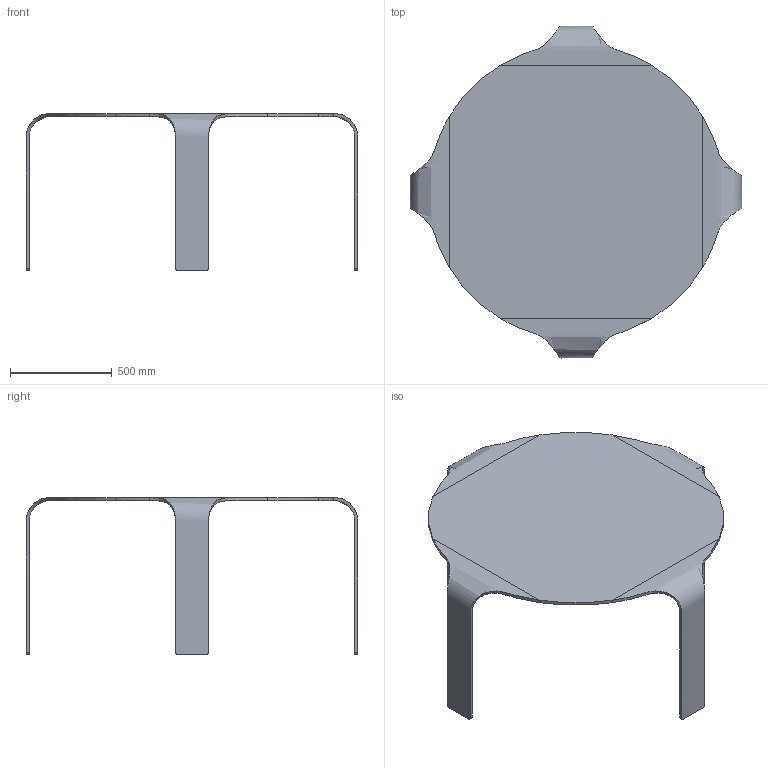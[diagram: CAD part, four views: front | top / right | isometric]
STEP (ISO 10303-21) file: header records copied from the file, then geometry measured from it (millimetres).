
FILE_DESCRIPTION(/* description */ (''),/* implementation_level */ '2;1');
FILE_NAME(/* name */ '05 - Ragno diam.164',/* time_stamp */ '2010-11-03T10:35:09+01:00',/* author */ (''),/* organization */ (''),/* preprocessor_version */ 'ST-DEVELOPER v10',/* originating_system */ '',/* authorisation */ '');
FILE_SCHEMA (('CONFIG_CONTROL_DESIGN'));
Length unit declared in the file: centimetre
Products named in the file (1): 1
Bounding box: 1630.05 x 1630.05 x 770.02 mm (x, y, z)
Volume: 39730810.8 mm3; surface area: 4553672 mm2
Topology: 1 solids, 1 shells, 38 faces, 92 edges, 56 vertices
Faces by surface type: bspline 32, plane 6
Entity records: 4392 total; most frequent: CARTESIAN_POINT 3760, ORIENTED_EDGE 184, EDGE_CURVE 92, VERTEX_POINT 56, B_SPLINE_CURVE_WITH_KNOTS 56, ADVANCED_FACE 38, FACE_OUTER_BOUND 38, EDGE_LOOP 38
